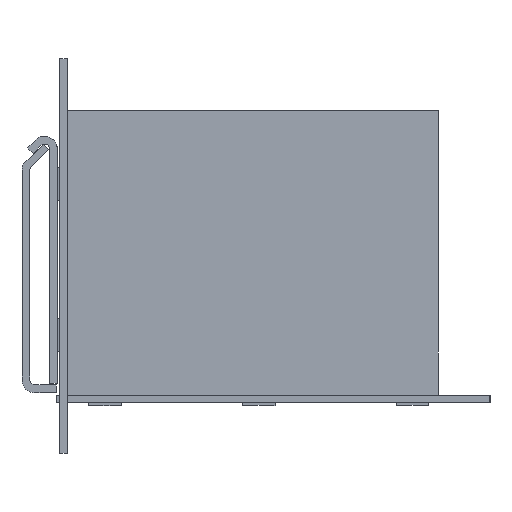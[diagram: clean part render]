
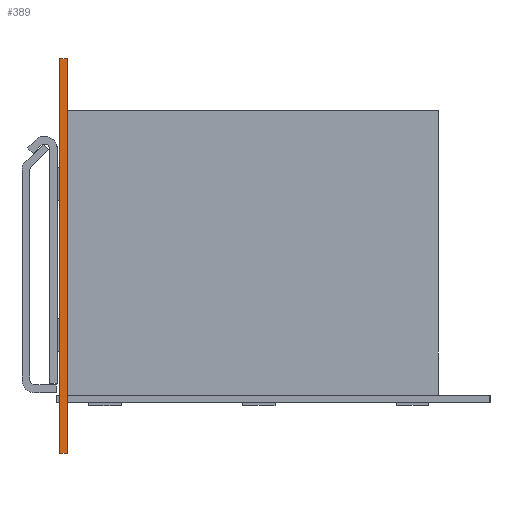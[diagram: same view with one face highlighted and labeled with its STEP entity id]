
A CAD part, left-side view. The second image highlights one B-rep face of the part: STEP entity #389.
In plain terms, the highlighted planar face has unit normal (-1, 0, 0).
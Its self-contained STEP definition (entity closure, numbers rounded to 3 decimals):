
#389=ADVANCED_FACE('',(#764),#6637,.T.);
#764=FACE_OUTER_BOUND('',#1159,.T.);
#1159=EDGE_LOOP('',(#2919,#2920,#2921,#2922));
#2919=ORIENTED_EDGE('',*,*,#4301,.T.);
#2920=ORIENTED_EDGE('',*,*,#4302,.T.);
#2921=ORIENTED_EDGE('',*,*,#4298,.F.);
#2922=ORIENTED_EDGE('',*,*,#4303,.T.);
#4298=EDGE_CURVE('',#6219,#6220,#5299,.T.);
#4301=EDGE_CURVE('',#6221,#6222,#5302,.T.);
#4302=EDGE_CURVE('',#6222,#6220,#5303,.T.);
#4303=EDGE_CURVE('',#6219,#6221,#5304,.T.);
#5299=B_SPLINE_CURVE_WITH_KNOTS('',1,(#10886,#10887),.UNSPECIFIED.,.F.,
 .F.,(2,2),(0.,4.),.UNSPECIFIED.);
#5302=B_SPLINE_CURVE_WITH_KNOTS('',1,(#10892,#10893),.UNSPECIFIED.,.F.,
 .F.,(2,2),(0.,4.),.UNSPECIFIED.);
#5303=B_SPLINE_CURVE_WITH_KNOTS('',1,(#10894,#10895),.UNSPECIFIED.,.F.,
 .F.,(2,2),(0.,206.5),.UNSPECIFIED.);
#5304=B_SPLINE_CURVE_WITH_KNOTS('',1,(#10896,#10897),.UNSPECIFIED.,.F.,
 .F.,(2,2),(0.,206.5),.UNSPECIFIED.);
#6219=VERTEX_POINT('',#10714);
#6220=VERTEX_POINT('',#10715);
#6221=VERTEX_POINT('',#10716);
#6222=VERTEX_POINT('',#10717);
#6637=PLANE('',#7424);
#7424=AXIS2_PLACEMENT_3D('',#10626,#7824,$);
#7824=DIRECTION('',(-1.,0.,0.));
#10626=CARTESIAN_POINT('',(-595.,123.9,-0.4));
#10714=CARTESIAN_POINT('',(-595.,103.25,0.));
#10715=CARTESIAN_POINT('',(-595.,103.25,4.));
#10716=CARTESIAN_POINT('',(-595.,-103.25,0.));
#10717=CARTESIAN_POINT('',(-595.,-103.25,4.));
#10886=CARTESIAN_POINT('',(-595.,103.25,0.));
#10887=CARTESIAN_POINT('',(-595.,103.25,4.));
#10892=CARTESIAN_POINT('',(-595.,-103.25,0.));
#10893=CARTESIAN_POINT('',(-595.,-103.25,4.));
#10894=CARTESIAN_POINT('',(-595.,-103.25,4.));
#10895=CARTESIAN_POINT('',(-595.,103.25,4.));
#10896=CARTESIAN_POINT('',(-595.,103.25,0.));
#10897=CARTESIAN_POINT('',(-595.,-103.25,0.));
